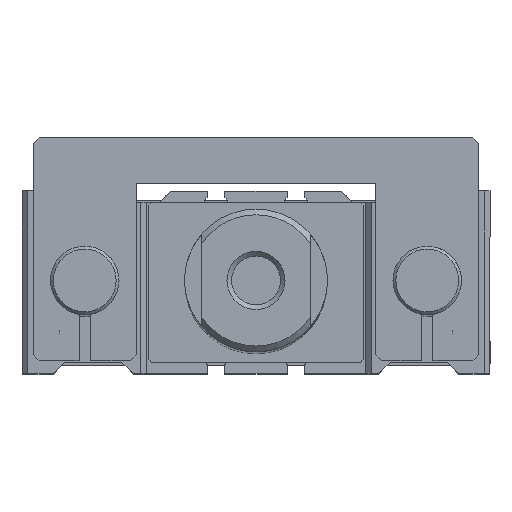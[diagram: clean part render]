
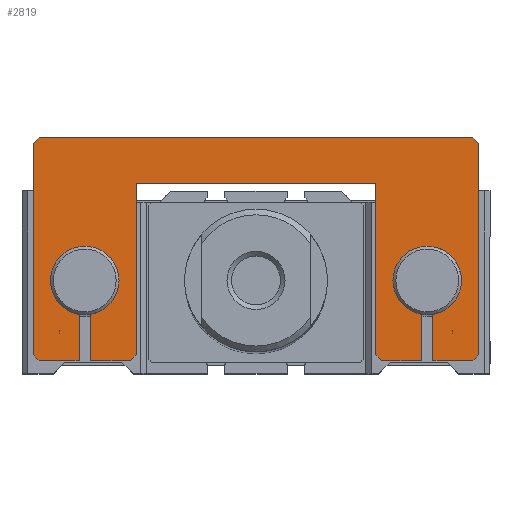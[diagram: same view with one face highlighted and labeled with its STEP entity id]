
A CAD part, top view. The second image highlights one B-rep face of the part: STEP entity #2819.
In plain terms, the highlighted planar face has unit normal (0, 0, 1).
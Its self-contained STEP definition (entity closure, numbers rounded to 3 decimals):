
#291=CARTESIAN_POINT('',(-29.0,-5.916,229.0));
#292=VERTEX_POINT('',#291);
#293=CARTESIAN_POINT('',(-31.0,-5.916,229.0));
#294=VERTEX_POINT('',#293);
#295=CARTESIAN_POINT('',(-30.0,0.0,229.0));
#296=DIRECTION('',(0.0,0.0,1.0));
#297=DIRECTION('',(0.0,-1.0,0.0));
#298=AXIS2_PLACEMENT_3D('',#295,#296,#297);
#299=CIRCLE('',#298,6.);
#300=EDGE_CURVE('',#292,#294,#299,.T.);
#378=CARTESIAN_POINT('',(31.,-5.916,229.0));
#379=VERTEX_POINT('',#378);
#380=CARTESIAN_POINT('',(29.,-5.916,229.0));
#381=VERTEX_POINT('',#380);
#382=CARTESIAN_POINT('',(30.0,0.0,229.0));
#383=DIRECTION('',(0.0,0.0,1.0));
#384=DIRECTION('',(0.0,-1.0,0.0));
#385=AXIS2_PLACEMENT_3D('',#382,#383,#384);
#386=CIRCLE('',#385,6.);
#387=EDGE_CURVE('',#379,#381,#386,.T.);
#2365=CARTESIAN_POINT('',(-39.0,24.,229.0));
#2366=VERTEX_POINT('',#2365);
#2367=CARTESIAN_POINT('',(-38.0,25.,229.0));
#2368=VERTEX_POINT('',#2367);
#2369=CARTESIAN_POINT('',(-39.0,24.,229.0));
#2370=DIRECTION('',(0.707,0.707,0.0));
#2371=VECTOR('',#2370,1.414);
#2372=LINE('',#2369,#2371);
#2373=EDGE_CURVE('',#2366,#2368,#2372,.T.);
#2429=CARTESIAN_POINT('',(-39.0,-13.,229.0));
#2430=VERTEX_POINT('',#2429);
#2437=CARTESIAN_POINT('',(-39.0,24.,229.0));
#2438=DIRECTION('',(0.0,-1.0,0.0));
#2439=VECTOR('',#2438,37.0);
#2440=LINE('',#2437,#2439);
#2441=EDGE_CURVE('',#2366,#2430,#2440,.T.);
#2622=CARTESIAN_POINT('',(38.0,25.,229.0));
#2623=VERTEX_POINT('',#2622);
#2630=CARTESIAN_POINT('',(39.0,24.,229.0));
#2631=VERTEX_POINT('',#2630);
#2632=CARTESIAN_POINT('',(38.0,25.,229.0));
#2633=DIRECTION('',(0.707,-0.707,0.0));
#2634=VECTOR('',#2633,1.414);
#2635=LINE('',#2632,#2634);
#2636=EDGE_CURVE('',#2623,#2631,#2635,.T.);
#2653=CARTESIAN_POINT('',(39.0,-13.,229.0));
#2654=VERTEX_POINT('',#2653);
#2655=CARTESIAN_POINT('',(39.0,-13.,229.0));
#2656=DIRECTION('',(0.0,1.0,0.0));
#2657=VECTOR('',#2656,37.0);
#2658=LINE('',#2655,#2657);
#2659=EDGE_CURVE('',#2654,#2631,#2658,.T.);
#2686=CARTESIAN_POINT('',(0.0,-14.,229.0));
#2687=DIRECTION('',(0.0,0.0,1.0));
#2688=DIRECTION('',(1.0,0.0,0.0));
#2689=AXIS2_PLACEMENT_3D('',#2686,#2687,#2688);
#2690=PLANE('',#2689);
#2691=ORIENTED_EDGE('',*,*,#2373,.F.);
#2692=ORIENTED_EDGE('',*,*,#2441,.T.);
#2693=CARTESIAN_POINT('',(-38.0,-14.,229.0));
#2694=VERTEX_POINT('',#2693);
#2695=CARTESIAN_POINT('',(-38.0,-14.,229.0));
#2696=DIRECTION('',(-0.707,0.707,0.0));
#2697=VECTOR('',#2696,1.414);
#2698=LINE('',#2695,#2697);
#2699=EDGE_CURVE('',#2694,#2430,#2698,.T.);
#2700=ORIENTED_EDGE('',*,*,#2699,.F.);
#2701=CARTESIAN_POINT('',(-31.0,-14.,229.0));
#2702=VERTEX_POINT('',#2701);
#2703=CARTESIAN_POINT('',(-38.0,-14.,229.0));
#2704=DIRECTION('',(1.0,0.0,0.0));
#2705=VECTOR('',#2704,7.0);
#2706=LINE('',#2703,#2705);
#2707=EDGE_CURVE('',#2694,#2702,#2706,.T.);
#2708=ORIENTED_EDGE('',*,*,#2707,.T.);
#2709=CARTESIAN_POINT('',(-31.0,-14.,229.0));
#2710=DIRECTION('',(0.0,1.0,0.0));
#2711=VECTOR('',#2710,8.084);
#2712=LINE('',#2709,#2711);
#2713=EDGE_CURVE('',#2702,#294,#2712,.T.);
#2714=ORIENTED_EDGE('',*,*,#2713,.T.);
#2715=ORIENTED_EDGE('',*,*,#300,.F.);
#2716=CARTESIAN_POINT('',(-29.0,-14.,229.0));
#2717=VERTEX_POINT('',#2716);
#2718=CARTESIAN_POINT('',(-29.0,-5.916,229.0));
#2719=DIRECTION('',(0.0,-1.0,0.0));
#2720=VECTOR('',#2719,8.084);
#2721=LINE('',#2718,#2720);
#2722=EDGE_CURVE('',#292,#2717,#2721,.T.);
#2723=ORIENTED_EDGE('',*,*,#2722,.T.);
#2724=CARTESIAN_POINT('',(-22.0,-14.,229.0));
#2725=VERTEX_POINT('',#2724);
#2726=CARTESIAN_POINT('',(-29.0,-14.,229.0));
#2727=DIRECTION('',(1.0,0.0,0.0));
#2728=VECTOR('',#2727,7.0);
#2729=LINE('',#2726,#2728);
#2730=EDGE_CURVE('',#2717,#2725,#2729,.T.);
#2731=ORIENTED_EDGE('',*,*,#2730,.T.);
#2732=CARTESIAN_POINT('',(-21.0,-13.,229.0));
#2733=VERTEX_POINT('',#2732);
#2734=CARTESIAN_POINT('',(-21.0,-13.,229.0));
#2735=DIRECTION('',(-0.707,-0.707,0.0));
#2736=VECTOR('',#2735,1.414);
#2737=LINE('',#2734,#2736);
#2738=EDGE_CURVE('',#2733,#2725,#2737,.T.);
#2739=ORIENTED_EDGE('',*,*,#2738,.F.);
#2740=CARTESIAN_POINT('',(-21.0,17.,229.0));
#2741=VERTEX_POINT('',#2740);
#2742=CARTESIAN_POINT('',(-21.0,-13.,229.0));
#2743=DIRECTION('',(0.0,1.0,0.0));
#2744=VECTOR('',#2743,30.);
#2745=LINE('',#2742,#2744);
#2746=EDGE_CURVE('',#2733,#2741,#2745,.T.);
#2747=ORIENTED_EDGE('',*,*,#2746,.T.);
#2748=CARTESIAN_POINT('',(21.0,17.,229.0));
#2749=VERTEX_POINT('',#2748);
#2750=CARTESIAN_POINT('',(-21.0,17.,229.0));
#2751=DIRECTION('',(1.0,0.0,0.0));
#2752=VECTOR('',#2751,42.0);
#2753=LINE('',#2750,#2752);
#2754=EDGE_CURVE('',#2741,#2749,#2753,.T.);
#2755=ORIENTED_EDGE('',*,*,#2754,.T.);
#2756=CARTESIAN_POINT('',(21.0,-13.,229.0));
#2757=VERTEX_POINT('',#2756);
#2758=CARTESIAN_POINT('',(21.0,17.,229.0));
#2759=DIRECTION('',(0.0,-1.0,0.0));
#2760=VECTOR('',#2759,30.);
#2761=LINE('',#2758,#2760);
#2762=EDGE_CURVE('',#2749,#2757,#2761,.T.);
#2763=ORIENTED_EDGE('',*,*,#2762,.T.);
#2764=CARTESIAN_POINT('',(22.0,-14.,229.0));
#2765=VERTEX_POINT('',#2764);
#2766=CARTESIAN_POINT('',(22.0,-14.,229.0));
#2767=DIRECTION('',(-0.707,0.707,0.0));
#2768=VECTOR('',#2767,1.414);
#2769=LINE('',#2766,#2768);
#2770=EDGE_CURVE('',#2765,#2757,#2769,.T.);
#2771=ORIENTED_EDGE('',*,*,#2770,.F.);
#2772=CARTESIAN_POINT('',(29.,-14.,229.0));
#2773=VERTEX_POINT('',#2772);
#2774=CARTESIAN_POINT('',(22.0,-14.,229.0));
#2775=DIRECTION('',(1.0,0.0,0.0));
#2776=VECTOR('',#2775,7.);
#2777=LINE('',#2774,#2776);
#2778=EDGE_CURVE('',#2765,#2773,#2777,.T.);
#2779=ORIENTED_EDGE('',*,*,#2778,.T.);
#2780=CARTESIAN_POINT('',(29.,-14.,229.0));
#2781=DIRECTION('',(0.0,1.0,0.0));
#2782=VECTOR('',#2781,8.084);
#2783=LINE('',#2780,#2782);
#2784=EDGE_CURVE('',#2773,#381,#2783,.T.);
#2785=ORIENTED_EDGE('',*,*,#2784,.T.);
#2786=ORIENTED_EDGE('',*,*,#387,.F.);
#2787=CARTESIAN_POINT('',(31.,-14.,229.0));
#2788=VERTEX_POINT('',#2787);
#2789=CARTESIAN_POINT('',(31.,-5.916,229.0));
#2790=DIRECTION('',(0.0,-1.0,0.0));
#2791=VECTOR('',#2790,8.084);
#2792=LINE('',#2789,#2791);
#2793=EDGE_CURVE('',#379,#2788,#2792,.T.);
#2794=ORIENTED_EDGE('',*,*,#2793,.T.);
#2795=CARTESIAN_POINT('',(38.0,-14.,229.0));
#2796=VERTEX_POINT('',#2795);
#2797=CARTESIAN_POINT('',(31.,-14.,229.0));
#2798=DIRECTION('',(1.0,0.0,0.0));
#2799=VECTOR('',#2798,7.);
#2800=LINE('',#2797,#2799);
#2801=EDGE_CURVE('',#2788,#2796,#2800,.T.);
#2802=ORIENTED_EDGE('',*,*,#2801,.T.);
#2803=CARTESIAN_POINT('',(39.0,-13.,229.0));
#2804=DIRECTION('',(-0.707,-0.707,0.0));
#2805=VECTOR('',#2804,1.414);
#2806=LINE('',#2803,#2805);
#2807=EDGE_CURVE('',#2654,#2796,#2806,.T.);
#2808=ORIENTED_EDGE('',*,*,#2807,.F.);
#2809=ORIENTED_EDGE('',*,*,#2659,.T.);
#2810=ORIENTED_EDGE('',*,*,#2636,.F.);
#2811=CARTESIAN_POINT('',(-38.0,25.,229.0));
#2812=DIRECTION('',(1.0,0.0,0.0));
#2813=VECTOR('',#2812,76.0);
#2814=LINE('',#2811,#2813);
#2815=EDGE_CURVE('',#2368,#2623,#2814,.T.);
#2816=ORIENTED_EDGE('',*,*,#2815,.F.);
#2817=EDGE_LOOP('',(#2691,#2692,#2700,#2708,#2714,#2715,#2723,#2731,#2739,#2747,#2755,#2763,#2771,#2779,#2785,#2786,#2794,#2802,#2808,#2809,#2810,#2816));
#2818=FACE_OUTER_BOUND('',#2817,.T.);
#2819=ADVANCED_FACE('',(#2818),#2690,.T.);
